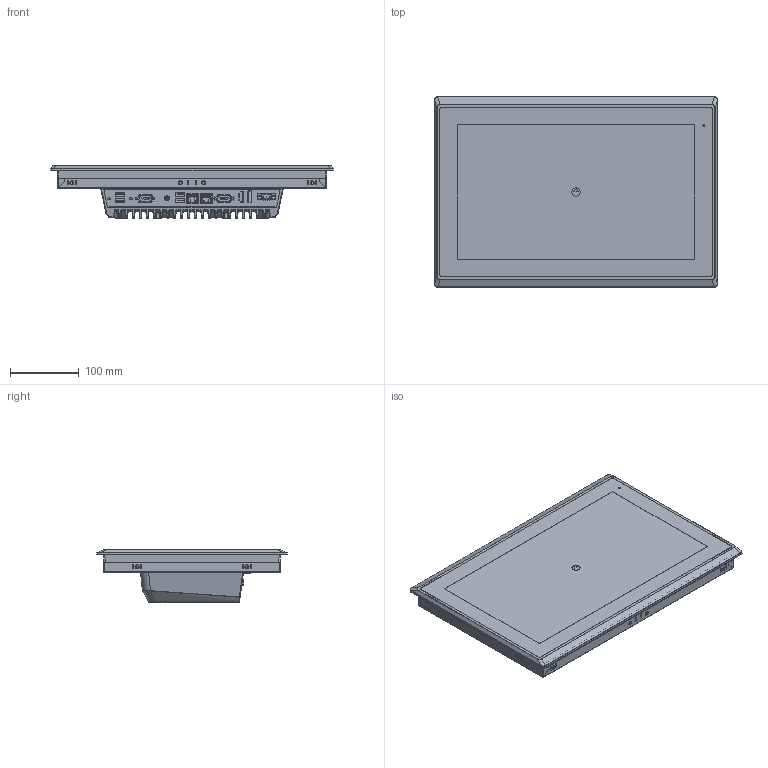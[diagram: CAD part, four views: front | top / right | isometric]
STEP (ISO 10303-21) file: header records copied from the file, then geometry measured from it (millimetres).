
FILE_DESCRIPTION (( 'STEP AP214' ), '1' );
FILE_NAME ('OMI6816C.STEP', '2025-06-24T22:12:10', ( '' ), ( '' ), 'SwSTEP 2.0', 'SolidWorks 2019', '' );
FILE_SCHEMA (( 'AUTOMOTIVE_DESIGN' ));
Length unit declared in the file: inch
Products named in the file (1): OMI6816C
Bounding box: 412 x 277.5 x 78.15 mm (x, y, z)
Surface area: 546626.5 mm2 (no closed solid volume)
Topology: 0 solids, 53 shells, 1611 faces, 5541 edges, 3788 vertices
Faces by surface type: cylinder 644, plane 559, bspline 344, cone 59, torus 5
Entity records: 93472 total; most frequent: CARTESIAN_POINT 29487, ORIENTED_EDGE 8561, DIRECTION 7892, EDGE_CURVE 5509, VERTEX_POINT 3788, LINE 2966, VECTOR 2966, AXIS2_PLACEMENT_3D 2463
